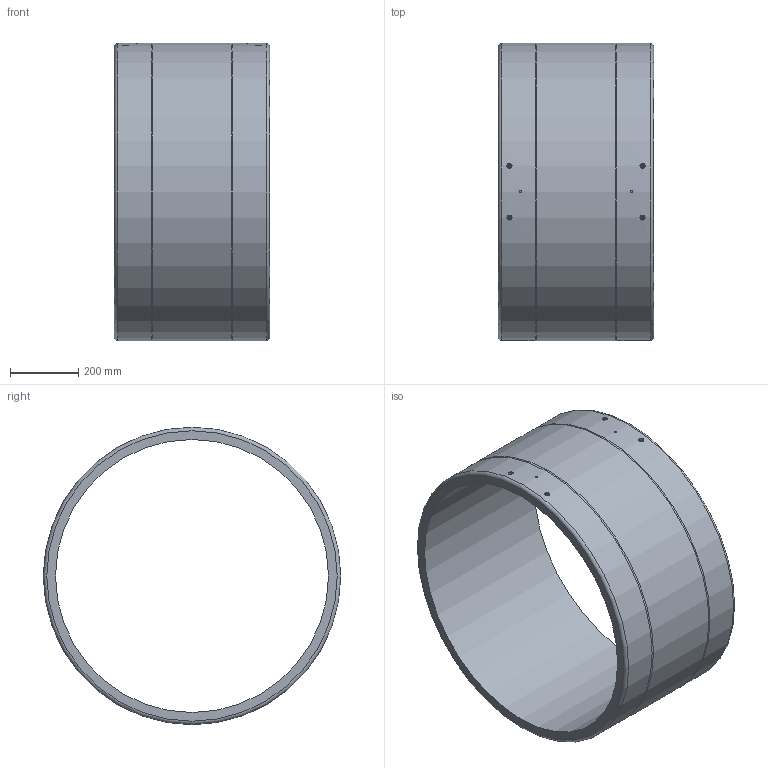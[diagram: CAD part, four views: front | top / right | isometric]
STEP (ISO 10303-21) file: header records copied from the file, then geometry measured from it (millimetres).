
FILE_DESCRIPTION(/* description */ ('Unknown'),/* implementation_level */ '2;1');
FILE_NAME(/* name */ 'MP800A',/* time_stamp */ '2021-06-23T15:48:57+02:00',/* author */ ('Unknown'),/* organization */ ('Unknown'),/* preprocessor_version */ 'ST-DEVELOPER v16.7',/* originating_system */ 'Solid Edge',/* authorisation */ 'Unknown');
FILE_SCHEMA (('AUTOMOTIVE_DESIGN {1 0 10303 214 3 1 1}'));
Length unit declared in the file: millimetre
Products named in the file (1): MP800A
Bounding box: 455 x 872 x 872 mm (x, y, z)
Volume: 42594768.4 mm3; surface area: 2555188 mm2
Topology: 1 solids, 1 shells, 34 faces, 67 edges, 43 vertices
Faces by surface type: cylinder 14, plane 12, bspline 4, cone 2, torus 2
Full cylindrical faces by diameter (mm): 4 x4, 6 x2, 13 x4, 800 x1, 871 x2, 872 x1
Entity records: 1104 total; most frequent: CARTESIAN_POINT 531, DIRECTION 110, ORIENTED_EDGE 68, EDGE_LOOP 68, FACE_BOUND 68, AXIS2_PLACEMENT_3D 55, EDGE_CURVE 34, VERTEX_POINT 34
